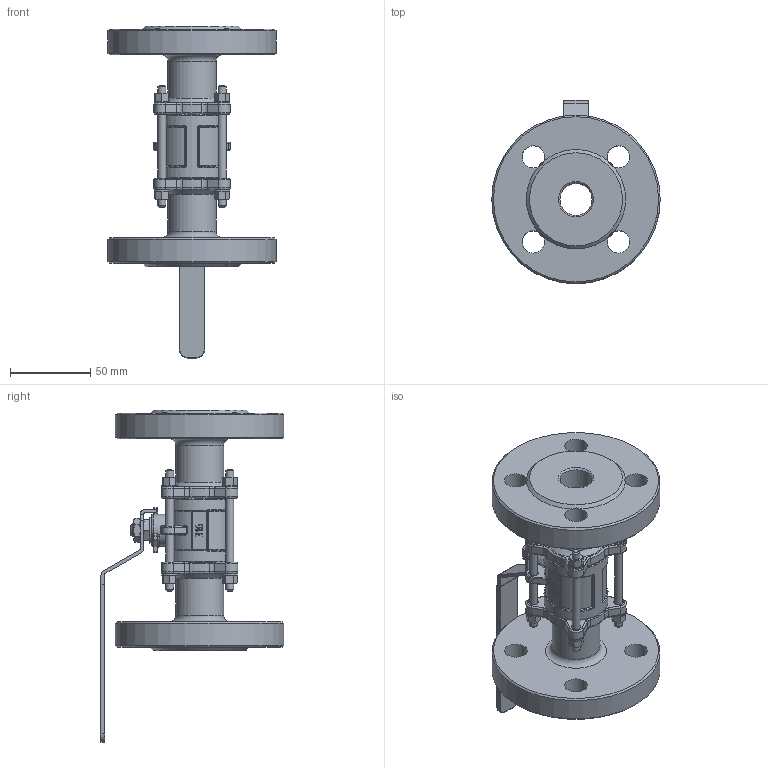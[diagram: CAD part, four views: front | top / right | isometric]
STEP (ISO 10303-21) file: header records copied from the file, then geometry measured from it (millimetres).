
FILE_DESCRIPTION(('STEP AP214'), '1');
FILE_NAME('BV3232P(3pc)-FP-F-H - Êðàí øàðîâîé DN.ru Äó20 Ðó40', '', ('UNSPECIFIED'), ('UNSPECIFIED'), 'C3D Converter', 'C3D Toolkit', '');
FILE_SCHEMA(('AUTOMOTIVE_DESIGN { 1 0 10303 214 3 1 1}'));
Length unit declared in the file: millimetre
Products named in the file (1): BV3232P(3pc)-FP-F-H
Bounding box: 105 x 114.5 x 207 mm (x, y, z)
Volume: 356337.4 mm3; surface area: 85564.2 mm2
Topology: 1 solids, 1 shells, 1555 faces, 3910 edges, 2445 vertices
Faces by surface type: plane 521, extrusion 446, cylinder 235, cone 139, torus 126, bspline 52, sphere 36
Full cylindrical faces by diameter (mm): 5 x12, 5.3 x8, 6 x10, 8 x1, 9.5 x8, 14 x8, 16 x1, 20 x2, 30 x2, 40 x1, 105 x2
Entity records: 62636 total; most frequent: CARTESIAN_POINT 23301, ORIENTED_EDGE 7662, DIRECTION 5940, EDGE_CURVE 3831, VERTEX_POINT 2445, VECTOR 2064, AXIS2_PLACEMENT_3D 1938, B_SPLINE_CURVE_WITH_KNOTS 1779
